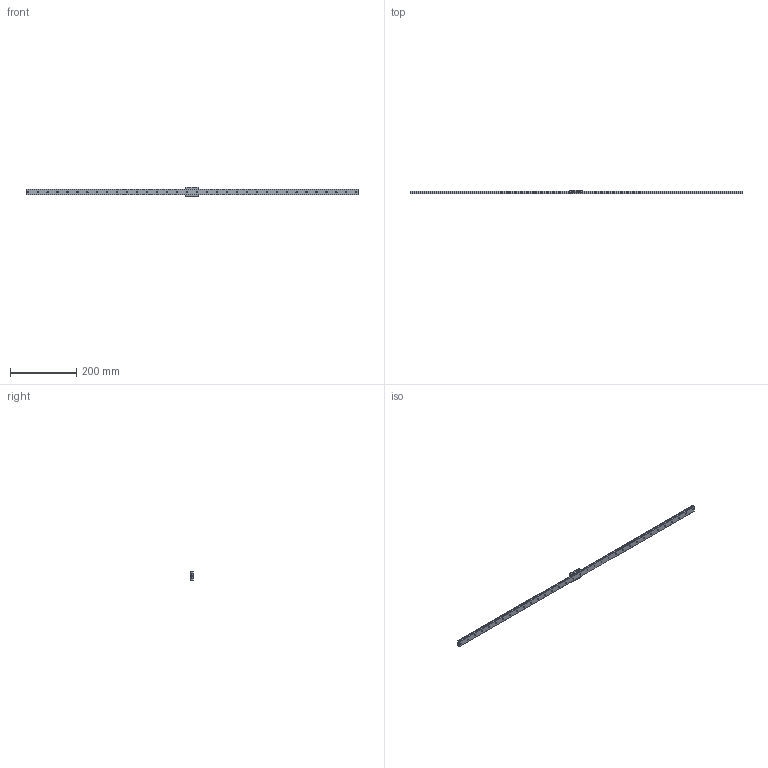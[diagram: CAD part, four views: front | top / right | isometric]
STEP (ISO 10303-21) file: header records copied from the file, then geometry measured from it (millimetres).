
FILE_DESCRIPTION( ( '' ), '1' );
FILE_NAME( 'C:/Users/v3-771-32344/Documents/Website 2016/STEP/SRS9WM1UU100050480.5000.stp', '2016-11-10T13:11:45', ( '' ), ( '' ), ' ', ' ', ' ' );
FILE_SCHEMA( ( 'CONFIG_CONTROL_DESIGN' ) );
Length unit declared in the file: millimetre
Products named in the file (2): 1; 2
Bounding box: 1000 x 12 x 30 mm (x, y, z)
Volume: 134781.9 mm3; surface area: 58547.7 mm2
Topology: 2 solids, 2 shells, 308 faces, 776 edges, 504 vertices
Faces by surface type: cylinder 180, plane 112, cone 16
Entity records: 9532 total; most frequent: DIRECTION 1756, CARTESIAN_POINT 1582, ORIENTED_EDGE 1536, EDGE_CURVE 768, AXIS2_PLACEMENT_3D 678, VERTEX_POINT 504, EDGE_LOOP 416, LINE 400
